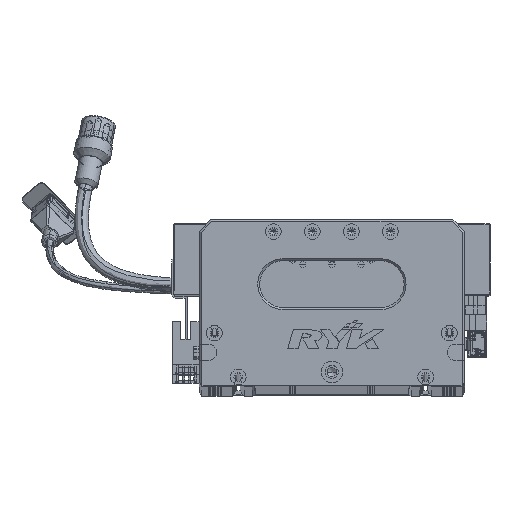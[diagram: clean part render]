
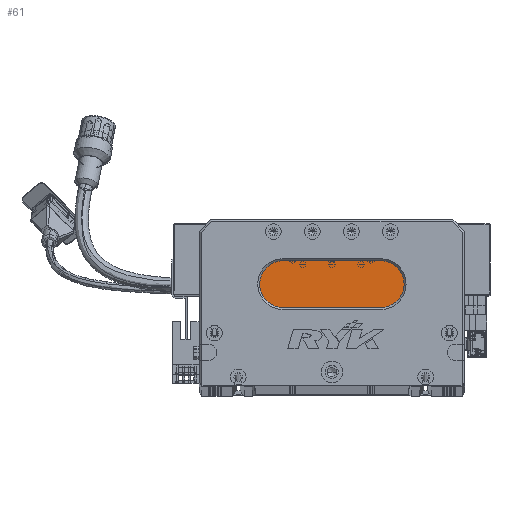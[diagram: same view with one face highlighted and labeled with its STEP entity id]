
A CAD part, top view. The second image highlights one B-rep face of the part: STEP entity #61.
In plain terms, the highlighted planar face has unit normal (0, 0, 1) as drawn and (0, 0, -1) by its records, which use the part's own axes.
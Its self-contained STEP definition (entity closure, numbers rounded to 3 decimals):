
#61 = ADVANCED_FACE ( 'NONE', ( #32910 ), #107305, .T. ) ;
#2305 = AXIS2_PLACEMENT_3D ( 'NONE', #52593, #74674, #43153 ) ;
#2574 = EDGE_CURVE ( 'NONE', #80528, #86653, #12113, .T. ) ;
#4012 = CARTESIAN_POINT ( 'NONE',  ( 43., 52., 13. ) ) ;
#4879 = ORIENTED_EDGE ( 'NONE', *, *, #94375, .T. ) ;
#12113 = CIRCLE ( 'NONE', #128543, 12. ) ;
#12316 = DIRECTION ( 'NONE',  ( 0., 0., -1. ) ) ;
#13810 = DIRECTION ( 'NONE',  ( -1., 0., 0. ) ) ;
#15433 = DIRECTION ( 'NONE',  ( 1., 0., 0. ) ) ;
#20671 = CARTESIAN_POINT ( 'NONE',  ( 43., 40., 13. ) ) ;
#22696 = CARTESIAN_POINT ( 'NONE',  ( 43., 64., 13. ) ) ;
#25812 = CARTESIAN_POINT ( 'NONE',  ( 93., 64., 13. ) ) ;
#32703 = VERTEX_POINT ( 'NONE', #22696 ) ;
#32910 = FACE_OUTER_BOUND ( 'NONE', #138579, .T. ) ;
#33268 = LINE ( 'NONE', #25812, #40041 ) ;
#35374 = CARTESIAN_POINT ( 'NONE',  ( 93., 64., 13. ) ) ;
#38475 = CARTESIAN_POINT ( 'NONE',  ( 93., 40., 13. ) ) ;
#40041 = VECTOR ( 'NONE', #15433, 1000. ) ;
#41004 = EDGE_CURVE ( 'NONE', #86653, #54071, #60895, .T. ) ;
#42429 = AXIS2_PLACEMENT_3D ( 'NONE', #4012, #121961, #90912 ) ;
#43153 = DIRECTION ( 'NONE',  ( -1., 0., 0. ) ) ;
#52593 = CARTESIAN_POINT ( 'NONE',  ( 43., 52., 13. ) ) ;
#53021 = CARTESIAN_POINT ( 'NONE',  ( 31., 52., 13. ) ) ;
#54071 = VERTEX_POINT ( 'NONE', #20671 ) ;
#55115 = CARTESIAN_POINT ( 'NONE',  ( 93., 52., 13. ) ) ;
#56136 = CARTESIAN_POINT ( 'NONE',  ( 93., 52., 13. ) ) ;
#60895 = LINE ( 'NONE', #38475, #79370 ) ;
#67398 = DIRECTION ( 'NONE',  ( 0., 0., -1. ) ) ;
#74674 = DIRECTION ( 'NONE',  ( 0., 0., -1. ) ) ;
#76908 = CIRCLE ( 'NONE', #2305, 12. ) ;
#76950 = ORIENTED_EDGE ( 'NONE', *, *, #100590, .T. ) ;
#79370 = VECTOR ( 'NONE', #111757, 1000. ) ;
#80528 = VERTEX_POINT ( 'NONE', #35374 ) ;
#86653 = VERTEX_POINT ( 'NONE', #91784 ) ;
#90912 = DIRECTION ( 'NONE',  ( -1., 0., 0. ) ) ;
#91784 = CARTESIAN_POINT ( 'NONE',  ( 93., 40., 13. ) ) ;
#92285 = ORIENTED_EDGE ( 'NONE', *, *, #2574, .T. ) ;
#94375 = EDGE_CURVE ( 'NONE', #117221, #32703, #76908, .T. ) ;
#100590 = EDGE_CURVE ( 'NONE', #54071, #117221, #122565, .T. ) ;
#107305 = PLANE ( 'NONE',  #131649 ) ;
#111757 = DIRECTION ( 'NONE',  ( -1., 0., 0. ) ) ;
#117221 = VERTEX_POINT ( 'NONE', #53021 ) ;
#121559 = EDGE_CURVE ( 'NONE', #32703, #80528, #33268, .T. ) ;
#121961 = DIRECTION ( 'NONE',  ( 0., 0., -1. ) ) ;
#122565 = CIRCLE ( 'NONE', #42429, 12. ) ;
#128543 = AXIS2_PLACEMENT_3D ( 'NONE', #56136, #67398, #13810 ) ;
#130792 = DIRECTION ( 'NONE',  ( -1., 0., 0. ) ) ;
#131649 = AXIS2_PLACEMENT_3D ( 'NONE', #55115, #12316, #130792 ) ;
#132642 = ORIENTED_EDGE ( 'NONE', *, *, #121559, .T. ) ;
#138383 = ORIENTED_EDGE ( 'NONE', *, *, #41004, .T. ) ;
#138579 = EDGE_LOOP ( 'NONE', ( #92285, #138383, #76950, #4879, #132642 ) ) ;
